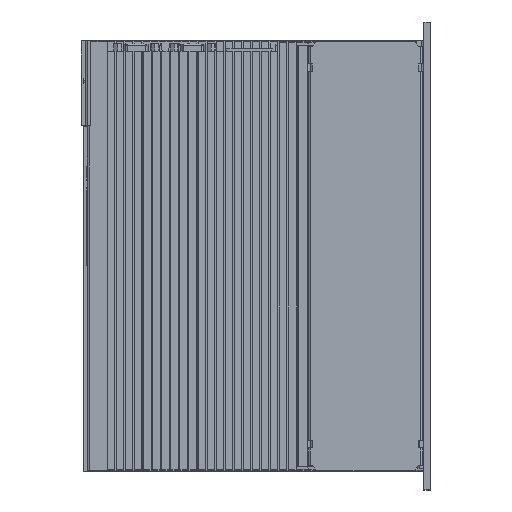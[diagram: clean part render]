
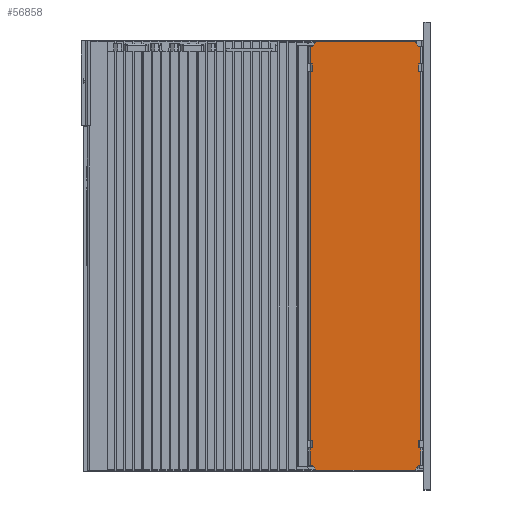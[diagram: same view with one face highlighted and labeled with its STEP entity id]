
A CAD part, top view. The second image highlights one B-rep face of the part: STEP entity #56858.
In plain terms, the highlighted planar face has unit normal (0, 0, 1).
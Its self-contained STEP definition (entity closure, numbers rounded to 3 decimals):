
#50844=PLANE('',#175707);
#56858=ADVANCED_FACE('',(#64330),#50844,.F.);
#64330=FACE_OUTER_BOUND('',#71367,.T.);
#71367=EDGE_LOOP('',(#131579,#131580,#131581,#131582,#131583,#131584,#131585,
#131586,#131587,#131588,#131589,#131590,#131591,#131592,#131593,#131594,
#131595,#131596,#131597,#131598,#131599,#131600,#131601,#131602,#131603,
#131604,#131605,#131606));
#85341=LINE('',#246520,#100172);
#85342=LINE('',#246523,#100173);
#85343=LINE('',#246525,#100174);
#85344=LINE('',#246527,#100175);
#85345=LINE('',#246529,#100176);
#85346=LINE('',#246531,#100177);
#85347=LINE('',#246533,#100178);
#85348=LINE('',#246535,#100179);
#85349=LINE('',#246537,#100180);
#85350=LINE('',#246539,#100181);
#85351=LINE('',#246541,#100182);
#85352=LINE('',#246543,#100183);
#85353=LINE('',#246545,#100184);
#85354=LINE('',#246547,#100185);
#85355=LINE('',#246549,#100186);
#85356=LINE('',#246551,#100187);
#85357=LINE('',#246553,#100188);
#85358=LINE('',#246555,#100189);
#85359=LINE('',#246557,#100190);
#85360=LINE('',#246559,#100191);
#85361=LINE('',#246561,#100192);
#85362=LINE('',#246563,#100193);
#85363=LINE('',#246565,#100194);
#85364=LINE('',#246567,#100195);
#85365=LINE('',#246569,#100196);
#85366=LINE('',#246571,#100197);
#85367=LINE('',#246573,#100198);
#85368=LINE('',#246575,#100199);
#100172=VECTOR('',#203311,1.);
#100173=VECTOR('',#203312,1.);
#100174=VECTOR('',#203313,1.);
#100175=VECTOR('',#203314,1.);
#100176=VECTOR('',#203315,1.);
#100177=VECTOR('',#203316,1.);
#100178=VECTOR('',#203317,1.);
#100179=VECTOR('',#203318,1.);
#100180=VECTOR('',#203319,1.);
#100181=VECTOR('',#203320,1.);
#100182=VECTOR('',#203321,1.);
#100183=VECTOR('',#203322,1.);
#100184=VECTOR('',#203323,1.);
#100185=VECTOR('',#203324,1.);
#100186=VECTOR('',#203325,1.);
#100187=VECTOR('',#203326,1.);
#100188=VECTOR('',#203327,1.);
#100189=VECTOR('',#203328,1.);
#100190=VECTOR('',#203329,1.);
#100191=VECTOR('',#203330,1.);
#100192=VECTOR('',#203331,1.);
#100193=VECTOR('',#203332,1.);
#100194=VECTOR('',#203333,1.);
#100195=VECTOR('',#203334,1.);
#100196=VECTOR('',#203335,1.);
#100197=VECTOR('',#203336,1.);
#100198=VECTOR('',#203337,1.);
#100199=VECTOR('',#203338,1.);
#131579=ORIENTED_EDGE('',*,*,#163853,.T.);
#131580=ORIENTED_EDGE('',*,*,#163854,.T.);
#131581=ORIENTED_EDGE('',*,*,#163855,.F.);
#131582=ORIENTED_EDGE('',*,*,#163856,.F.);
#131583=ORIENTED_EDGE('',*,*,#163857,.T.);
#131584=ORIENTED_EDGE('',*,*,#163858,.T.);
#131585=ORIENTED_EDGE('',*,*,#163859,.T.);
#131586=ORIENTED_EDGE('',*,*,#163860,.F.);
#131587=ORIENTED_EDGE('',*,*,#163861,.T.);
#131588=ORIENTED_EDGE('',*,*,#163862,.T.);
#131589=ORIENTED_EDGE('',*,*,#163863,.T.);
#131590=ORIENTED_EDGE('',*,*,#163864,.F.);
#131591=ORIENTED_EDGE('',*,*,#163865,.F.);
#131592=ORIENTED_EDGE('',*,*,#163866,.T.);
#131593=ORIENTED_EDGE('',*,*,#163867,.F.);
#131594=ORIENTED_EDGE('',*,*,#163868,.T.);
#131595=ORIENTED_EDGE('',*,*,#163869,.F.);
#131596=ORIENTED_EDGE('',*,*,#163870,.T.);
#131597=ORIENTED_EDGE('',*,*,#163871,.T.);
#131598=ORIENTED_EDGE('',*,*,#163872,.T.);
#131599=ORIENTED_EDGE('',*,*,#163873,.T.);
#131600=ORIENTED_EDGE('',*,*,#163874,.T.);
#131601=ORIENTED_EDGE('',*,*,#163875,.T.);
#131602=ORIENTED_EDGE('',*,*,#163876,.T.);
#131603=ORIENTED_EDGE('',*,*,#163877,.T.);
#131604=ORIENTED_EDGE('',*,*,#163878,.T.);
#131605=ORIENTED_EDGE('',*,*,#163879,.F.);
#131606=ORIENTED_EDGE('',*,*,#163880,.T.);
#147286=VERTEX_POINT('',#246521);
#147287=VERTEX_POINT('',#246522);
#147288=VERTEX_POINT('',#246524);
#147289=VERTEX_POINT('',#246526);
#147290=VERTEX_POINT('',#246528);
#147291=VERTEX_POINT('',#246530);
#147292=VERTEX_POINT('',#246532);
#147293=VERTEX_POINT('',#246534);
#147294=VERTEX_POINT('',#246536);
#147295=VERTEX_POINT('',#246538);
#147296=VERTEX_POINT('',#246540);
#147297=VERTEX_POINT('',#246542);
#147298=VERTEX_POINT('',#246544);
#147299=VERTEX_POINT('',#246546);
#147300=VERTEX_POINT('',#246548);
#147301=VERTEX_POINT('',#246550);
#147302=VERTEX_POINT('',#246552);
#147303=VERTEX_POINT('',#246554);
#147304=VERTEX_POINT('',#246556);
#147305=VERTEX_POINT('',#246558);
#147306=VERTEX_POINT('',#246560);
#147307=VERTEX_POINT('',#246562);
#147308=VERTEX_POINT('',#246564);
#147309=VERTEX_POINT('',#246566);
#147310=VERTEX_POINT('',#246568);
#147311=VERTEX_POINT('',#246570);
#147312=VERTEX_POINT('',#246572);
#147313=VERTEX_POINT('',#246574);
#163853=EDGE_CURVE('',#147286,#147287,#85341,.T.);
#163854=EDGE_CURVE('',#147287,#147288,#85342,.T.);
#163855=EDGE_CURVE('',#147289,#147288,#85343,.T.);
#163856=EDGE_CURVE('',#147290,#147289,#85344,.T.);
#163857=EDGE_CURVE('',#147290,#147291,#85345,.T.);
#163858=EDGE_CURVE('',#147291,#147292,#85346,.T.);
#163859=EDGE_CURVE('',#147292,#147293,#85347,.T.);
#163860=EDGE_CURVE('',#147294,#147293,#85348,.T.);
#163861=EDGE_CURVE('',#147294,#147295,#85349,.T.);
#163862=EDGE_CURVE('',#147295,#147296,#85350,.T.);
#163863=EDGE_CURVE('',#147296,#147297,#85351,.T.);
#163864=EDGE_CURVE('',#147298,#147297,#85352,.T.);
#163865=EDGE_CURVE('',#147299,#147298,#85353,.T.);
#163866=EDGE_CURVE('',#147299,#147300,#85354,.T.);
#163867=EDGE_CURVE('',#147301,#147300,#85355,.T.);
#163868=EDGE_CURVE('',#147301,#147302,#85356,.T.);
#163869=EDGE_CURVE('',#147303,#147302,#85357,.T.);
#163870=EDGE_CURVE('',#147303,#147304,#85358,.T.);
#163871=EDGE_CURVE('',#147304,#147305,#85359,.T.);
#163872=EDGE_CURVE('',#147305,#147306,#85360,.T.);
#163873=EDGE_CURVE('',#147306,#147307,#85361,.T.);
#163874=EDGE_CURVE('',#147307,#147308,#85362,.T.);
#163875=EDGE_CURVE('',#147308,#147309,#85363,.T.);
#163876=EDGE_CURVE('',#147309,#147310,#85364,.T.);
#163877=EDGE_CURVE('',#147310,#147311,#85365,.T.);
#163878=EDGE_CURVE('',#147311,#147312,#85366,.T.);
#163879=EDGE_CURVE('',#147313,#147312,#85367,.T.);
#163880=EDGE_CURVE('',#147313,#147286,#85368,.T.);
#175707=AXIS2_PLACEMENT_3D('',#246576,#203339,#203340);
#203311=DIRECTION('',(1.,0.,0.));
#203312=DIRECTION('',(0.707,0.707,0.));
#203313=DIRECTION('',(-1.,0.,0.));
#203314=DIRECTION('',(0.,-1.,0.));
#203315=DIRECTION('',(-1.,0.,0.));
#203316=DIRECTION('',(0.,1.,0.));
#203317=DIRECTION('',(1.,0.,0.));
#203318=DIRECTION('',(0.,-1.,0.));
#203319=DIRECTION('',(-1.,0.,0.));
#203320=DIRECTION('',(0.,1.,0.));
#203321=DIRECTION('',(1.,0.,0.));
#203322=DIRECTION('',(0.,-1.,0.));
#203323=DIRECTION('',(1.,0.,0.));
#203324=DIRECTION('',(-0.707,0.707,0.));
#203325=DIRECTION('',(1.,0.,0.));
#203326=DIRECTION('',(-0.707,-0.707,0.));
#203327=DIRECTION('',(1.,0.,0.));
#203328=DIRECTION('',(0.,-1.,0.));
#203329=DIRECTION('',(1.,0.,0.));
#203330=DIRECTION('',(0.,-1.,0.));
#203331=DIRECTION('',(-1.,0.,0.));
#203332=DIRECTION('',(0.,-1.,0.));
#203333=DIRECTION('',(1.,0.,0.));
#203334=DIRECTION('',(0.,-1.,0.));
#203335=DIRECTION('',(-1.,0.,0.));
#203336=DIRECTION('',(0.,-1.,0.));
#203337=DIRECTION('',(-1.,0.,0.));
#203338=DIRECTION('',(0.707,-0.707,0.));
#203339=DIRECTION('',(0.,0.,-1.));
#203340=DIRECTION('',(-1.,0.,0.));
#246520=CARTESIAN_POINT('',(15.395,-134.805,54.007));
#246521=CARTESIAN_POINT('',(19.895,-134.805,54.007));
#246522=CARTESIAN_POINT('',(85.395,-134.805,54.007));
#246523=CARTESIAN_POINT('',(88.395,-131.805,54.007));
#246524=CARTESIAN_POINT('',(88.395,-131.805,54.007));
#246525=CARTESIAN_POINT('',(92.895,-131.805,54.007));
#246526=CARTESIAN_POINT('',(89.795,-131.805,54.007));
#246527=CARTESIAN_POINT('',(89.795,153.695,54.007));
#246528=CARTESIAN_POINT('',(89.795,-119.805,54.007));
#246529=CARTESIAN_POINT('',(92.895,-119.805,54.007));
#246530=CARTESIAN_POINT('',(88.395,-119.805,54.007));
#246531=CARTESIAN_POINT('',(88.395,-119.805,54.007));
#246532=CARTESIAN_POINT('',(88.395,-114.805,54.007));
#246533=CARTESIAN_POINT('',(92.895,-114.805,54.007));
#246534=CARTESIAN_POINT('',(89.795,-114.805,54.007));
#246535=CARTESIAN_POINT('',(89.795,153.695,54.007));
#246536=CARTESIAN_POINT('',(89.795,133.695,54.007));
#246537=CARTESIAN_POINT('',(92.895,133.695,54.007));
#246538=CARTESIAN_POINT('',(88.395,133.695,54.007));
#246539=CARTESIAN_POINT('',(88.395,138.695,54.007));
#246540=CARTESIAN_POINT('',(88.395,138.695,54.007));
#246541=CARTESIAN_POINT('',(92.895,138.695,54.007));
#246542=CARTESIAN_POINT('',(89.795,138.695,54.007));
#246543=CARTESIAN_POINT('',(89.795,153.695,54.007));
#246544=CARTESIAN_POINT('',(89.795,150.695,54.007));
#246545=CARTESIAN_POINT('',(92.895,150.695,54.007));
#246546=CARTESIAN_POINT('',(88.395,150.695,54.007));
#246547=CARTESIAN_POINT('',(88.395,150.695,54.007));
#246548=CARTESIAN_POINT('',(85.395,153.695,54.007));
#246549=CARTESIAN_POINT('',(15.395,153.695,54.007));
#246550=CARTESIAN_POINT('',(19.895,153.695,54.007));
#246551=CARTESIAN_POINT('',(16.895,150.695,54.007));
#246552=CARTESIAN_POINT('',(16.895,150.695,54.007));
#246553=CARTESIAN_POINT('',(12.395,150.695,54.007));
#246554=CARTESIAN_POINT('',(15.495,150.695,54.007));
#246555=CARTESIAN_POINT('',(15.495,153.695,54.007));
#246556=CARTESIAN_POINT('',(15.495,138.695,54.007));
#246557=CARTESIAN_POINT('',(15.395,138.695,54.007));
#246558=CARTESIAN_POINT('',(16.895,138.695,54.007));
#246559=CARTESIAN_POINT('',(16.895,153.695,54.007));
#246560=CARTESIAN_POINT('',(16.895,133.695,54.007));
#246561=CARTESIAN_POINT('',(15.395,133.695,54.007));
#246562=CARTESIAN_POINT('',(15.495,133.695,54.007));
#246563=CARTESIAN_POINT('',(15.495,153.695,54.007));
#246564=CARTESIAN_POINT('',(15.495,-114.805,54.007));
#246565=CARTESIAN_POINT('',(15.395,-114.805,54.007));
#246566=CARTESIAN_POINT('',(16.895,-114.805,54.007));
#246567=CARTESIAN_POINT('',(16.895,153.695,54.007));
#246568=CARTESIAN_POINT('',(16.895,-119.805,54.007));
#246569=CARTESIAN_POINT('',(15.395,-119.805,54.007));
#246570=CARTESIAN_POINT('',(15.495,-119.805,54.007));
#246571=CARTESIAN_POINT('',(15.495,153.695,54.007));
#246572=CARTESIAN_POINT('',(15.495,-131.805,54.007));
#246573=CARTESIAN_POINT('',(12.395,-131.805,54.007));
#246574=CARTESIAN_POINT('',(16.895,-131.805,54.007));
#246575=CARTESIAN_POINT('',(16.895,-131.805,54.007));
#246576=CARTESIAN_POINT('',(15.395,153.695,54.007));
